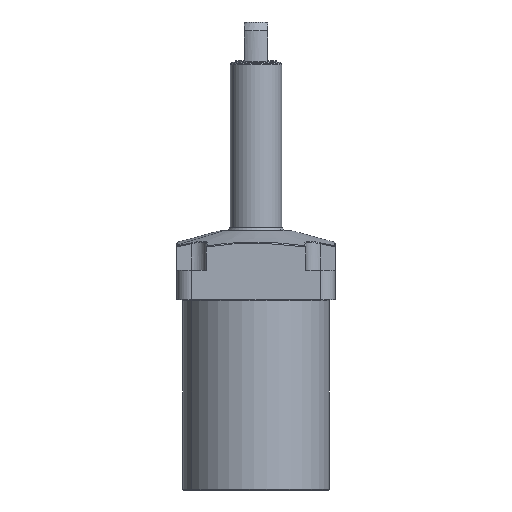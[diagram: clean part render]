
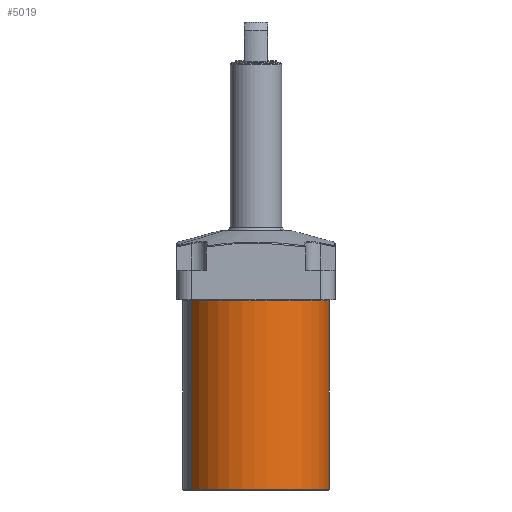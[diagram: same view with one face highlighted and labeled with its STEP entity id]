
A CAD part, left-side view. The second image highlights one B-rep face of the part: STEP entity #5019.
In plain terms, the highlighted cylindrical face has radius 50 mm (diameter 100 mm), a partial arc.
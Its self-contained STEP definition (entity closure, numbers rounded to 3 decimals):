
#4950=CARTESIAN_POINT('Vertex',(-23.971,43.879,129.2)) ;
#4953=CARTESIAN_POINT('Axis2P3D Location',(0.,0.,129.2)) ;
#4957=CARTESIAN_POINT('Vertex',(23.971,-43.879,129.2)) ;
#4989=CARTESIAN_POINT('Axis2P3D Location',(0.,0.,88.5)) ;
#4994=CARTESIAN_POINT('Line Origine',(-23.971,43.879,65.)) ;
#4998=CARTESIAN_POINT('Vertex',(-23.971,43.879,0.5)) ;
#5001=CARTESIAN_POINT('Axis2P3D Location',(0.,0.,0.5)) ;
#5005=CARTESIAN_POINT('Vertex',(23.971,-43.879,0.5)) ;
#5008=CARTESIAN_POINT('Line Origine',(23.971,-43.879,65.)) ;
#4954=DIRECTION('Axis2P3D Direction',(0.,0.,1.)) ;
#4990=DIRECTION('Axis2P3D Direction',(0.,0.,1.)) ;
#4991=DIRECTION('Axis2P3D XDirection',(-0.479,0.878,0.)) ;
#4995=DIRECTION('Vector Direction',(0.,0.,1.)) ;
#5002=DIRECTION('Axis2P3D Direction',(0.,0.,1.)) ;
#5009=DIRECTION('Vector Direction',(0.,0.,1.)) ;
#4955=AXIS2_PLACEMENT_3D('Circle Axis2P3D',#4953,#4954,$) ;
#4992=AXIS2_PLACEMENT_3D('Cylinder Axis2P3D',#4989,#4990,#4991) ;
#5003=AXIS2_PLACEMENT_3D('Circle Axis2P3D',#5001,#5002,$) ;
#5014=ORIENTED_EDGE('',*,*,#5000,.F.) ;
#5015=ORIENTED_EDGE('',*,*,#5007,.T.) ;
#5016=ORIENTED_EDGE('',*,*,#5012,.T.) ;
#5017=ORIENTED_EDGE('',*,*,#4959,.T.) ;
#4996=VECTOR('Line Direction',#4995,1.) ;
#5010=VECTOR('Line Direction',#5009,1.) ;
#5019=ADVANCED_FACE('',(#5018),#4993,.T.) ;
#4956=CIRCLE('generated circle',#4955,50.) ;
#5004=CIRCLE('generated circle',#5003,50.) ;
#4993=CYLINDRICAL_SURFACE('generated cylinder',#4992,50.) ;
#4959=EDGE_CURVE('',#4958,#4951,#4956,.F.) ;
#5000=EDGE_CURVE('',#4999,#4951,#4997,.T.) ;
#5007=EDGE_CURVE('',#4999,#5006,#5004,.T.) ;
#5012=EDGE_CURVE('',#5006,#4958,#5011,.T.) ;
#5013=EDGE_LOOP('',(#5014,#5015,#5016,#5017)) ;
#5018=FACE_OUTER_BOUND('',#5013,.T.) ;
#4997=LINE('Line',#4994,#4996) ;
#5011=LINE('Line',#5008,#5010) ;
#4951=VERTEX_POINT('',#4950) ;
#4958=VERTEX_POINT('',#4957) ;
#4999=VERTEX_POINT('',#4998) ;
#5006=VERTEX_POINT('',#5005) ;
